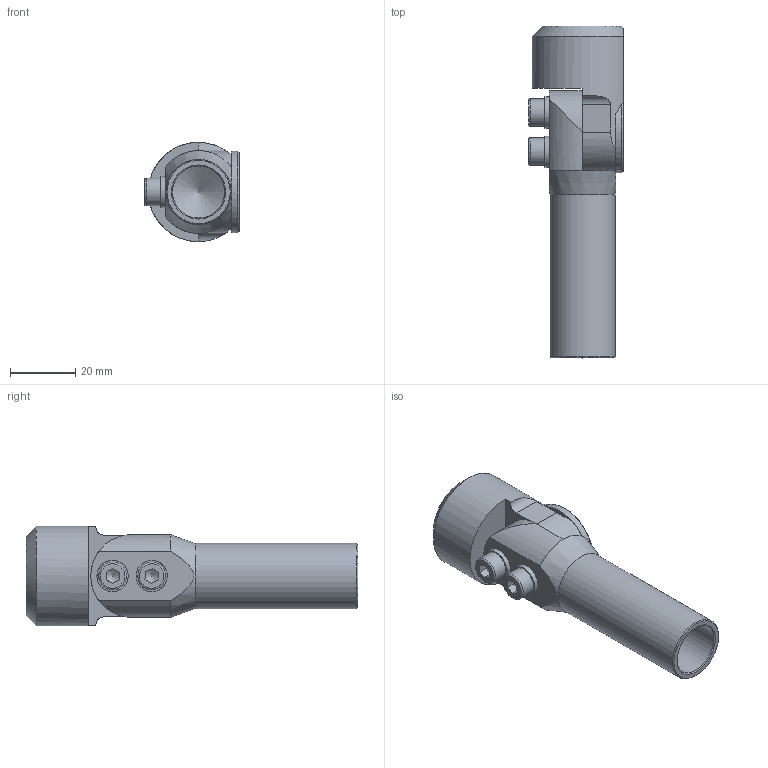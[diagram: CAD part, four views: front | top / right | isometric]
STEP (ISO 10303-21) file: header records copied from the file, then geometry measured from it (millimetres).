
FILE_DESCRIPTION(/* description */ ('Elbow Vacuum Cup Gripper Arm'),/* implementation_level */ '2;1');
FILE_NAME(/* name */ 'EVGA-20-18-18-50.STEP',/* time_stamp */ '2026-02-10T14:28:16-05:00',/* author */ ('Design2'),/* organization */ ('CCS Design LLC'),/* preprocessor_version */ 'ST-DEVELOPER v20',/* originating_system */ 'Autodesk Inventor 2025',/* authorisation */ '');
FILE_SCHEMA (('AUTOMOTIVE_DESIGN { 1 0 10303 214 3 1 1 }'));
Length unit declared in the file: inch
Products named in the file (6): EVGA-20-18-18-50; M-EGA-20-50-S; M-EGA-20-I; M-EVGA-18-18-H; ANSI B18.3.1M - M5x0.8 x 20; ANSI B18.21.1 - 0.216
Assembly tree (7 placements, depth 2):
  EVGA-20-18-18-50
    M-EGA-20-50-S
    M-EGA-20-I
    M-EVGA-18-18-H
    ANSI B18.3.1M - M5x0.8 x 20  x2
    ANSI B18.21.1 - 0.216  x2
Bounding box: 29.12 x 101.85 x 30.48 mm (x, y, z)
Volume: 32775.5 mm3; surface area: 18038.8 mm2
Topology: 7 solids, 7 shells, 94 faces, 220 edges, 143 vertices
Faces by surface type: plane 43, cylinder 30, cone 17, torus 4
Full cylindrical faces by diameter (mm): 4.14 x2, 5 x2, 5.512 x2, 8.5 x2, 8.56 x2, 16 x1, 20 x4, 25 x1
Entity records: 2496 total; most frequent: CARTESIAN_POINT 541, DIRECTION 393, ORIENTED_EDGE 338, EDGE_CURVE 169, AXIS2_PLACEMENT_3D 163, VERTEX_POINT 111, EDGE_LOOP 90, FACE_OUTER_BOUND 73
